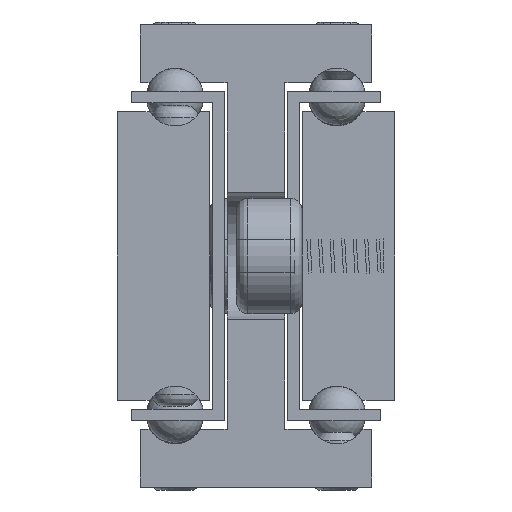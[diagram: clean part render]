
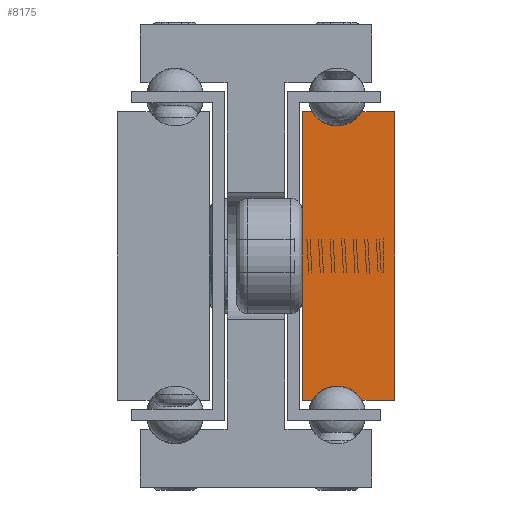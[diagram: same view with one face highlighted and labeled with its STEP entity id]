
A CAD part, front view. The second image highlights one B-rep face of the part: STEP entity #8175.
In plain terms, the highlighted planar face has unit normal (0, -1, 0).
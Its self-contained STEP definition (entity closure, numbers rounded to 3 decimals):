
#482=LINE('',#11472,#1220);
#485=LINE('',#11478,#1223);
#489=LINE('',#11490,#1227);
#492=LINE('',#11496,#1230);
#495=LINE('',#11502,#1233);
#499=LINE('',#11512,#1237);
#1220=VECTOR('',#9432,1.);
#1223=VECTOR('',#9437,1.);
#1227=VECTOR('',#9449,1.);
#1230=VECTOR('',#9454,1.);
#1233=VECTOR('',#9459,1.);
#1237=VECTOR('',#9471,1.);
#1963=PLANE('',#8769);
#2465=FACE_OUTER_BOUND('',#2989,.T.);
#2989=EDGE_LOOP('',(#5888,#5889,#5890,#5891,#5892,#5893,#5894,#5895));
#3657=CIRCLE('',#8760,2.5);
#3659=CIRCLE('',#8766,2.5);
#3860=VERTEX_POINT('',#11469);
#3861=VERTEX_POINT('',#11471);
#3863=VERTEX_POINT('',#11477);
#3865=VERTEX_POINT('',#11483);
#3867=VERTEX_POINT('',#11489);
#3869=VERTEX_POINT('',#11495);
#3871=VERTEX_POINT('',#11501);
#3873=VERTEX_POINT('',#11507);
#4706=EDGE_CURVE('',#3861,#3860,#482,.T.);
#4709=EDGE_CURVE('',#3863,#3861,#485,.T.);
#4712=EDGE_CURVE('',#3865,#3863,#3657,.T.);
#4715=EDGE_CURVE('',#3867,#3865,#489,.T.);
#4718=EDGE_CURVE('',#3869,#3867,#492,.T.);
#4721=EDGE_CURVE('',#3871,#3869,#495,.T.);
#4724=EDGE_CURVE('',#3873,#3871,#3659,.T.);
#4727=EDGE_CURVE('',#3860,#3873,#499,.T.);
#5888=ORIENTED_EDGE('',*,*,#4727,.T.);
#5889=ORIENTED_EDGE('',*,*,#4724,.T.);
#5890=ORIENTED_EDGE('',*,*,#4721,.T.);
#5891=ORIENTED_EDGE('',*,*,#4718,.T.);
#5892=ORIENTED_EDGE('',*,*,#4715,.T.);
#5893=ORIENTED_EDGE('',*,*,#4712,.T.);
#5894=ORIENTED_EDGE('',*,*,#4709,.T.);
#5895=ORIENTED_EDGE('',*,*,#4706,.T.);
#8175=ADVANCED_FACE('',(#2465),#1963,.T.);
#8760=AXIS2_PLACEMENT_3D('',#11484,#9443,#9444);
#8766=AXIS2_PLACEMENT_3D('',#11508,#9465,#9466);
#8769=AXIS2_PLACEMENT_3D('',#11514,#9474,#9475);
#9432=DIRECTION('',(0.,0.,-1.));
#9437=DIRECTION('',(-1.,0.,0.));
#9443=DIRECTION('center_axis',(0.,1.,0.));
#9444=DIRECTION('ref_axis',(-0.866,0.,-0.5));
#9449=DIRECTION('',(-1.,0.,0.));
#9454=DIRECTION('',(0.,0.,1.));
#9459=DIRECTION('',(1.,0.,0.));
#9465=DIRECTION('center_axis',(0.,1.,0.));
#9466=DIRECTION('ref_axis',(0.866,0.,0.5));
#9471=DIRECTION('',(1.,0.,0.));
#9474=DIRECTION('center_axis',(0.,-1.,0.));
#9475=DIRECTION('ref_axis',(1.,0.,0.));
#11469=CARTESIAN_POINT('',(2297.505,1229.133,287.5));
#11471=CARTESIAN_POINT('',(2297.505,1229.133,312.5));
#11472=CARTESIAN_POINT('',(2297.505,1229.133,287.5));
#11477=CARTESIAN_POINT('',(2298.34,1229.133,312.5));
#11478=CARTESIAN_POINT('',(2297.505,1229.133,312.5));
#11483=CARTESIAN_POINT('',(2302.67,1229.133,312.5));
#11484=CARTESIAN_POINT('Origin',(2300.505,1229.133,313.75));
#11489=CARTESIAN_POINT('',(2305.505,1229.133,312.5));
#11490=CARTESIAN_POINT('',(2302.67,1229.133,312.5));
#11495=CARTESIAN_POINT('',(2305.505,1229.133,287.5));
#11496=CARTESIAN_POINT('',(2305.505,1229.133,312.5));
#11501=CARTESIAN_POINT('',(2302.67,1229.133,287.5));
#11502=CARTESIAN_POINT('',(2305.505,1229.133,287.5));
#11507=CARTESIAN_POINT('',(2298.34,1229.133,287.5));
#11508=CARTESIAN_POINT('Origin',(2300.505,1229.133,286.25));
#11512=CARTESIAN_POINT('',(2298.34,1229.133,287.5));
#11514=CARTESIAN_POINT('Origin',(2301.517,1229.133,300.));
